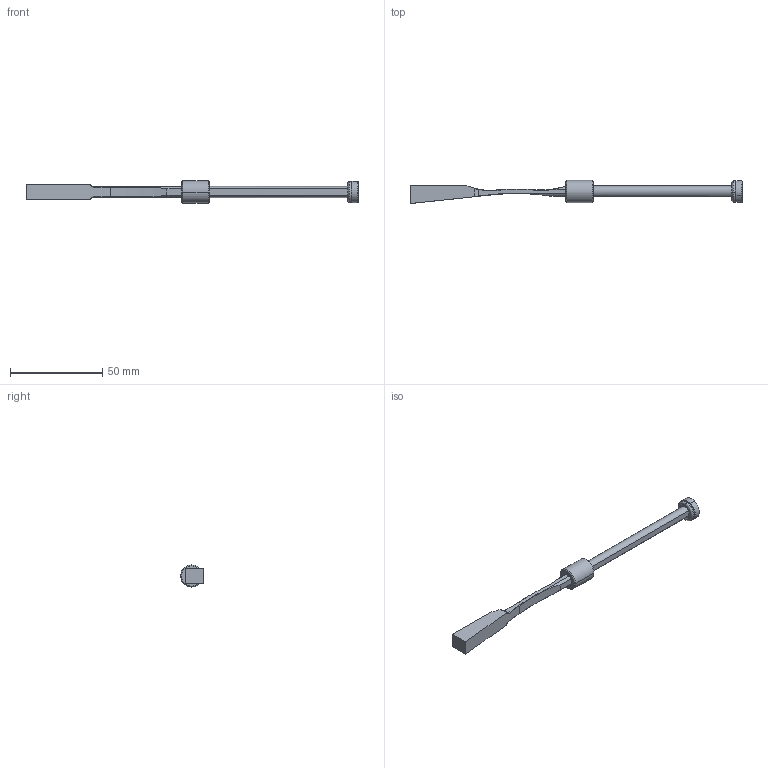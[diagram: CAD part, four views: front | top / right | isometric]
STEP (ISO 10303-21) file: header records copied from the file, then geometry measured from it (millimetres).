
FILE_DESCRIPTION (( 'STEP AP214' ), '1' );
FILE_NAME ('PW060830-Tancada.STEP', '2020-02-10T08:42:07', ( '' ), ( '' ), 'SwSTEP 2.0', 'SolidWorks 2018', '' );
FILE_SCHEMA (( 'AUTOMOTIVE_DESIGN' ));
Length unit declared in the file: millimetre
Products named in the file (6): 9FP1205M4; 9PW060830 TANCADA; 3JT7.5X2X11.5; PW060830-Tancada; 9CS061215; 1DIN7991416_DIN 7991 - M4 x 16 --- 16C
Assembly tree (5 placements, depth 2):
  PW060830-Tancada
    9PW060830 TANCADA
    9FP1205M4
    3JT7.5X2X11.5
    1DIN7991416_DIN 7991 - M4 x 16 --- 16C
    9CS061215
Bounding box: 180 x 12.5 x 12 mm (x, y, z)
Volume: 7134.3 mm3; surface area: 6048.6 mm2
Topology: 5 solids, 5 shells, 104 faces, 234 edges, 137 vertices
Faces by surface type: plane 32, cone 28, cylinder 26, torus 14, bspline 4
Entity records: 3307 total; most frequent: CARTESIAN_POINT 676, DIRECTION 517, ORIENTED_EDGE 460, EDGE_CURVE 230, AXIS2_PLACEMENT_3D 210, VERTEX_POINT 137, EDGE_LOOP 111, FACE_OUTER_BOUND 104
